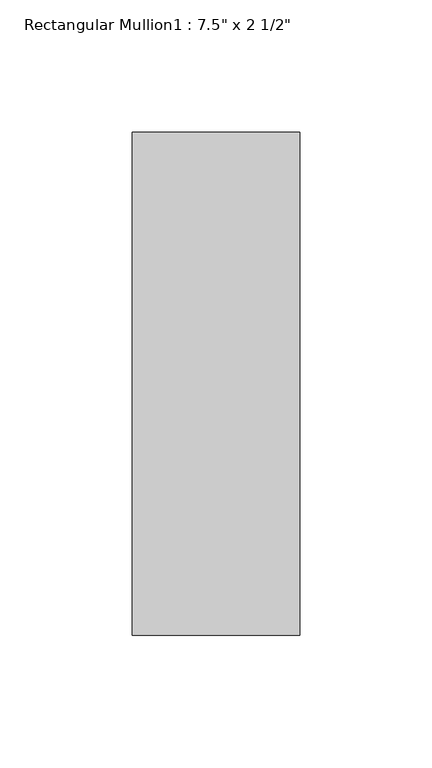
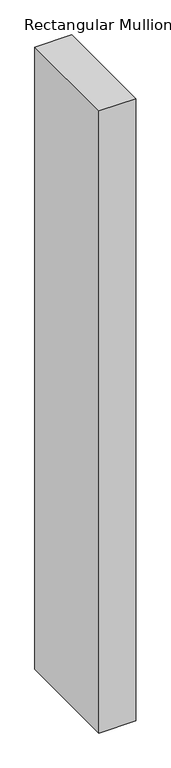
"""IFC4 building model written with IfcOpenShell, lengths in millimetres: member geometry."""

from ifc_helpers import new_model, si_unit, frame, origin, place, context, project, spatial, polyline, outline, extrude, source, transform, mapped, element, save


def member_a4ca70c8(model_context):
    return source(origin(), model_context, "Body", "SweptSolid", [
        extrude(outline(polyline([(0.0, 165.1), (0.0, -25.4), (-63.5, -25.4), (-63.5, 165.1), (0.0, 165.1)])), frame((0.0, 0.0, -1130.3000021), z_axis=(0.0, 0.0, 1.0), x_axis=(1.0, 0.0, 0.0)), (0.0, 0.0, 1.0), 1130.3000021),
    ])


if __name__ == "__main__":
    model = new_model("IFC4")
    model_context = context("Model", 3, world=origin())
    ifc_project = project(units=[si_unit("LENGTHUNIT", "METRE", prefix="MILLI")], contexts=[model_context])
    site = spatial("IfcSite", under=ifc_project)
    building = spatial("IfcBuilding", under=site)
    placement = place(None, origin())
    member_shape = member_a4ca70c8(model_context)
    element("IfcMember", 1, ObjectType="Rectangular Mullion1 : 7.5\" x 2 1/2\"", at=placement, inside=building, context=model_context, shape_type="MappedRepresentation", body=[
        mapped(member_shape, transform((0.0, 0.0, 0.0), x_axis=(1.0, 0.0, 0.0), y_axis=(0.0, 1.0, 0.0), z_axis=(0.0, 0.0, 1.0))),
    ])
    save(model, "model.ifc")
